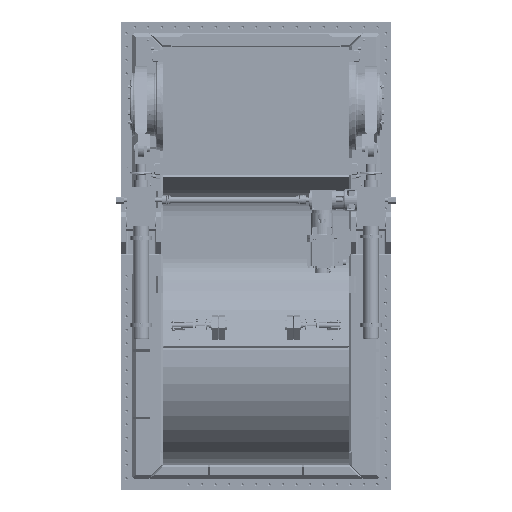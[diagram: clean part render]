
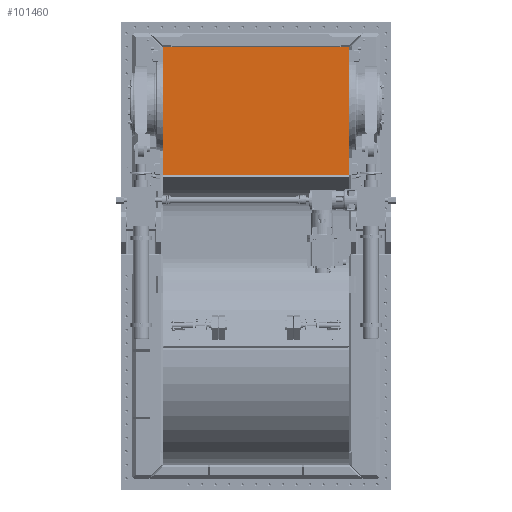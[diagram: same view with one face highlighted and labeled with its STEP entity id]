
A CAD part, top view. The second image highlights one B-rep face of the part: STEP entity #101460.
In plain terms, the highlighted planar face has unit normal (0, 0, 1).
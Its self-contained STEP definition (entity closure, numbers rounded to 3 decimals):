
#6684=FACE_OUTER_BOUND('',#12408,.T.);
#12408=EDGE_LOOP('',(#76182,#76183,#76184,#76185));
#25445=LINE('',#159681,#34149);
#25447=LINE('',#159685,#34151);
#25449=LINE('',#159689,#34153);
#25451=LINE('',#159692,#34155);
#34149=VECTOR('',#130014,10.);
#34151=VECTOR('',#130018,10.);
#34153=VECTOR('',#130022,10.);
#34155=VECTOR('',#130026,10.);
#42637=VERTEX_POINT('',#159678);
#42638=VERTEX_POINT('',#159680);
#42639=VERTEX_POINT('',#159684);
#42640=VERTEX_POINT('',#159688);
#54667=EDGE_CURVE('',#42637,#42638,#25445,.T.);
#54669=EDGE_CURVE('',#42638,#42639,#25447,.T.);
#54671=EDGE_CURVE('',#42639,#42640,#25449,.T.);
#54673=EDGE_CURVE('',#42640,#42637,#25451,.T.);
#76182=ORIENTED_EDGE('',*,*,#54667,.F.);
#76183=ORIENTED_EDGE('',*,*,#54673,.F.);
#76184=ORIENTED_EDGE('',*,*,#54671,.F.);
#76185=ORIENTED_EDGE('',*,*,#54669,.F.);
#91643=PLANE('',#109393);
#101460=ADVANCED_FACE('',(#6684),#91643,.T.);
#109393=AXIS2_PLACEMENT_3D('',#159693,#130027,#130028);
#130014=DIRECTION('',(-1.,0.,0.));
#130018=DIRECTION('',(0.,1.,0.));
#130022=DIRECTION('',(1.,0.,0.));
#130026=DIRECTION('',(0.,-1.,0.));
#130027=DIRECTION('center_axis',(0.,0.,
1.));
#130028=DIRECTION('ref_axis',(0.,1.,0.));
#159678=CARTESIAN_POINT('',(0.,1150.,587.));
#159680=CARTESIAN_POINT('',(-1102.,1150.,587.));
#159681=CARTESIAN_POINT('',(0.,1150.,587.));
#159684=CARTESIAN_POINT('',(-1102.,1910.,587.));
#159685=CARTESIAN_POINT('',(-1102.,1150.,587.));
#159688=CARTESIAN_POINT('',(0.,1910.,587.));
#159689=CARTESIAN_POINT('',(-1102.,1910.,587.));
#159692=CARTESIAN_POINT('',(0.,1910.,587.));
#159693=CARTESIAN_POINT('Origin',(-551.,1530.,587.));
